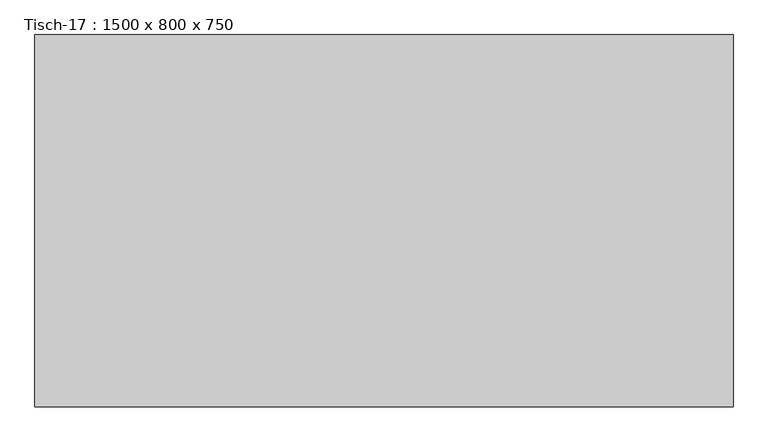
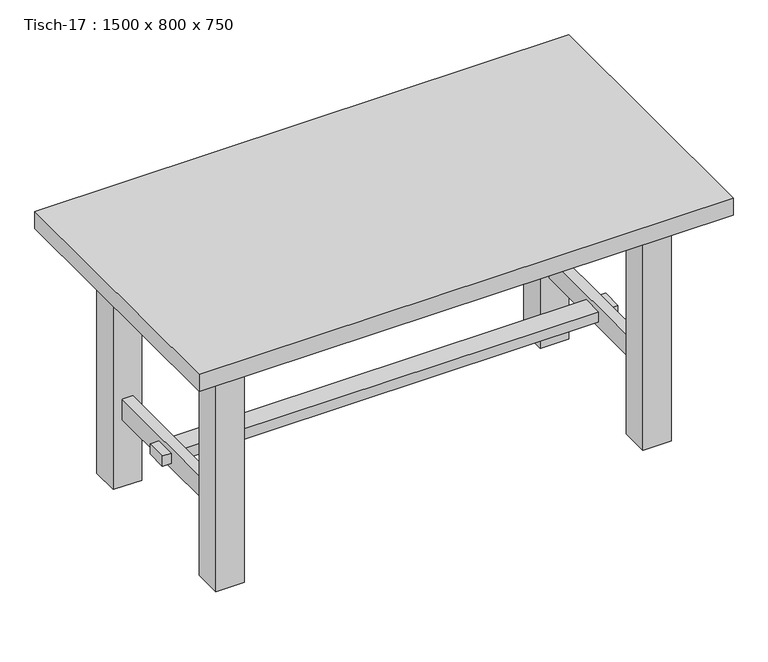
"""IFC4 building model written with IfcOpenShell, lengths in millimetres: furniture geometry, Tisch-17 : 1500 x 800 x 750."""

from ifc_helpers import new_model, si_unit, frame, origin, origin_with_axes, place, context, project, spatial, polyline, outline, extrude, faceted_brep, source, transform, mapped, element, save


def tisch_17_1500_x_800_x_750_a301e799(model_context):
    return source(origin(), model_context, "Body", "SolidModel", [
        faceted_brep([(-569.682456, -170.8700593, 260.0), (-569.682456, 249.1299407, 260.0), (-599.682456, 249.1299407, 260.0), (-599.682456, -170.8700593, 260.0), (630.317544, -170.8700593, 260.0), (630.317544, 249.1299407, 260.0), (600.317544, 249.1299407, 260.0), (600.317544, -170.8700593, 260.0), (-569.682456, -170.8700593, 200.0), (-599.682456, -170.8700593, 200.0), (-599.682456, 249.1299407, 200.0), (-569.682456, 249.1299407, 200.0), (630.317544, -170.8700593, 200.0), (600.317544, -170.8700593, 200.0), (600.317544, 249.1299407, 200.0), (630.317544, 249.1299407, 200.0), (-569.682456, 69.1299407, 245.0), (-569.682456, 69.1299407, 215.0), (-569.682456, 9.1299407, 215.0), (-569.682456, 9.1299407, 245.0), (-599.682456, 69.1299407, 215.0), (-599.682456, 69.1299407, 245.0), (-599.682456, 9.1299407, 245.0), (-599.682456, 9.1299407, 215.0), (630.317544, 69.1299407, 245.0), (630.317544, 69.1299407, 215.0), (630.317544, 9.1299407, 215.0), (630.317544, 9.1299407, 245.0), (600.317544, 69.1299407, 215.0), (600.317544, 69.1299407, 245.0), (600.317544, 9.1299407, 245.0), (600.317544, 9.1299407, 215.0), (655.317544, 69.1299407, 215.0), (655.317544, 69.1299407, 245.0), (655.317544, 9.1299407, 245.0), (655.317544, 9.1299407, 215.0), (-624.682456, 69.1299407, 215.0), (-624.682456, 9.1299407, 215.0), (-624.682456, 9.1299407, 245.0), (-624.682456, 69.1299407, 245.0)], [[[0, 1, 2, 3]], [[4, 5, 6, 7]], [[8, 9, 10, 11]], [[12, 13, 14, 15]], [[1, 0, 8, 11], [16, 17, 18, 19]], [[2, 1, 11, 10]], [[3, 2, 10, 9], [20, 21, 22, 23]], [[0, 3, 9, 8]], [[5, 4, 12, 15], [24, 25, 26, 27]], [[6, 5, 15, 14]], [[7, 6, 14, 13], [28, 29, 30, 31]], [[4, 7, 13, 12]], [[32, 33, 34, 35]], [[36, 37, 38, 39]], [[33, 32, 25, 24]], [[36, 39, 21, 20]], [[28, 17, 16, 29]], [[34, 33, 24, 27]], [[39, 38, 22, 21]], [[29, 16, 19, 30]], [[35, 34, 27, 26]], [[38, 37, 23, 22]], [[30, 19, 18, 31]], [[32, 35, 26, 25]], [[37, 36, 20, 23]], [[17, 28, 31, 18]]]),
        extrude(outline(polyline([(575.317544, 304.1299407), (575.317544, 274.1299407), (-544.682456, 274.1299407), (-544.682456, 304.1299407), (575.317544, 304.1299407)])), frame((0.0, 0.0, 620.0), z_axis=(0.0, 0.0, 1.0), x_axis=(1.0, 0.0, 0.0)), (0.0, 0.0, 1.0), 80.0),
        extrude(outline(polyline([(575.317544, -195.8700593), (575.317544, -225.8700593), (-544.682456, -225.8700593), (-544.682456, -195.8700593), (575.317544, -195.8700593)])), frame((0.0, 0.0, 620.0), z_axis=(0.0, 0.0, 1.0), x_axis=(1.0, 0.0, 0.0)), (0.0, 0.0, 1.0), 80.0),
        extrude(outline(polyline([(-569.682456, -170.8700593), (-599.682456, -170.8700593), (-599.682456, 249.1299407), (-569.682456, 249.1299407), (-569.682456, -170.8700593)])), frame((0.0, 0.0, 620.0), z_axis=(0.0, 0.0, 1.0), x_axis=(1.0, 0.0, 0.0)), (0.0, 0.0, 1.0), 80.0),
        extrude(outline(polyline([(630.317544, -170.8700593), (600.317544, -170.8700593), (600.317544, 249.1299407), (630.317544, 249.1299407), (630.317544, -170.8700593)])), frame((0.0, 0.0, 620.0), z_axis=(0.0, 0.0, 1.0), x_axis=(1.0, 0.0, 0.0)), (0.0, 0.0, 1.0), 80.0),
        extrude(outline(polyline([(-544.682456, 249.1299407), (-624.682456, 249.1299407), (-624.682456, 329.1299407), (-544.682456, 329.1299407), (-544.682456, 249.1299407)])), origin_with_axes(), (0.0, 0.0, 1.0), 700.0),
        extrude(outline(polyline([(-624.682456, -170.8700593), (-544.682456, -170.8700593), (-544.682456, -250.8700593), (-624.682456, -250.8700593), (-624.682456, -170.8700593)])), origin_with_axes(), (0.0, 0.0, 1.0), 700.0),
        extrude(outline(polyline([(655.317544, -170.8700593), (655.317544, -250.8700593), (575.317544, -250.8700593), (575.317544, -170.8700593), (655.317544, -170.8700593)])), origin_with_axes(), (0.0, 0.0, 1.0), 700.0),
        extrude(outline(polyline([(655.317544, 249.1299407), (575.317544, 249.1299407), (575.317544, 329.1299407), (655.317544, 329.1299407), (655.317544, 249.1299407)])), origin_with_axes(), (0.0, 0.0, 1.0), 700.0),
        extrude(outline(polyline([(765.317544, 439.1299407), (765.317544, -360.8700593), (-734.682456, -360.8700593), (-734.682456, 439.1299407), (765.317544, 439.1299407)])), frame((0.0, 0.0, 700.0), z_axis=(0.0, 0.0, 1.0), x_axis=(1.0, 0.0, 0.0)), (0.0, 0.0, 1.0), 50.0),
    ])


if __name__ == "__main__":
    model = new_model("IFC4")
    model_context = context("Model", 3, world=origin())
    ifc_project = project(units=[si_unit("LENGTHUNIT", "METRE", prefix="MILLI")], contexts=[model_context])
    site = spatial("IfcSite", under=ifc_project)
    building = spatial("IfcBuilding", under=site)
    placement = place(None, origin())
    tisch_17_1500_x_800_x_750_shape = tisch_17_1500_x_800_x_750_a301e799(model_context)
    element("IfcFurniture", 1, ObjectType="Tisch-17 : 1500 x 800 x 750", at=placement, inside=building, context=model_context, shape_type="MappedRepresentation", body=[
        mapped(tisch_17_1500_x_800_x_750_shape, transform((0.0, 0.0, 0.0), x_axis=(1.0, 0.0, 0.0), y_axis=(0.0, 1.0, 0.0), z_axis=(0.0, 0.0, 1.0))),
    ])
    save(model, "model.ifc")
